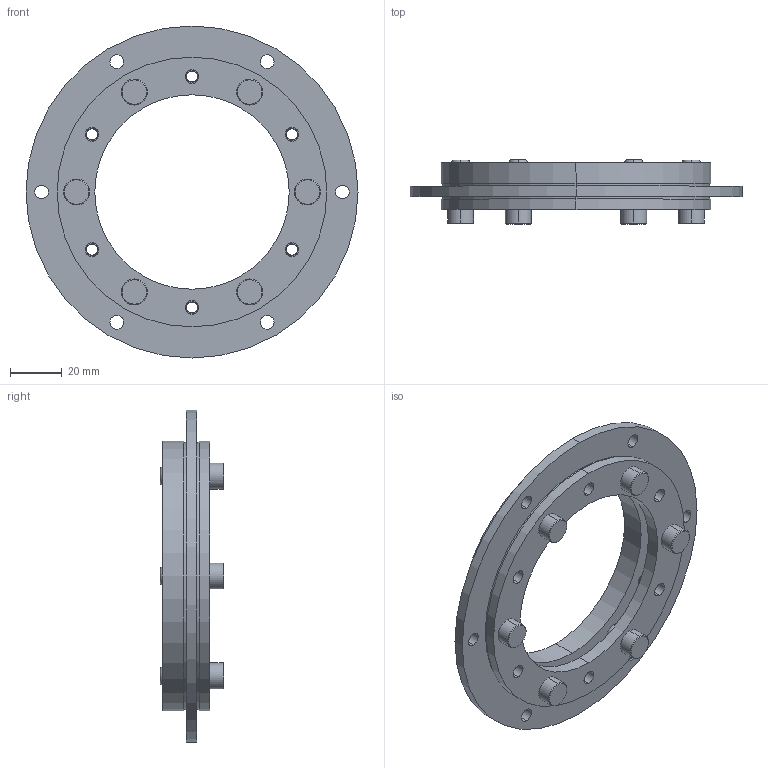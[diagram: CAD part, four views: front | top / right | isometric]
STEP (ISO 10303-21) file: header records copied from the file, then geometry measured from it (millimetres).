
FILE_DESCRIPTION (( 'STEP AP203' ), '1' );
FILE_NAME ('XG11-013-5.STEP', '2025-04-16T02:52:10', ( '微软用户' ), ( '微软中国' ), 'SwSTEP 2.0', 'SolidWorks 2024', '' );
FILE_SCHEMA (( 'CONFIG_CONTROL_DESIGN' ));
Length unit declared in the file: millimetre
Products named in the file (1): XG11-013-5
Bounding box: 128 x 24.66 x 128 mm (x, y, z)
Volume: 80645.3 mm3; surface area: 40926.7 mm2
Topology: 2 solids, 2 shells, 475 faces, 1161 edges, 716 vertices
Faces by surface type: cylinder 196, cone 168, bspline 52, plane 47, torus 12
Entity records: 15986 total; most frequent: CARTESIAN_POINT 4553, DIRECTION 2489, ORIENTED_EDGE 2298, EDGE_CURVE 1149, AXIS2_PLACEMENT_3D 1020, VERTEX_POINT 716, CIRCLE 596, EDGE_LOOP 565
